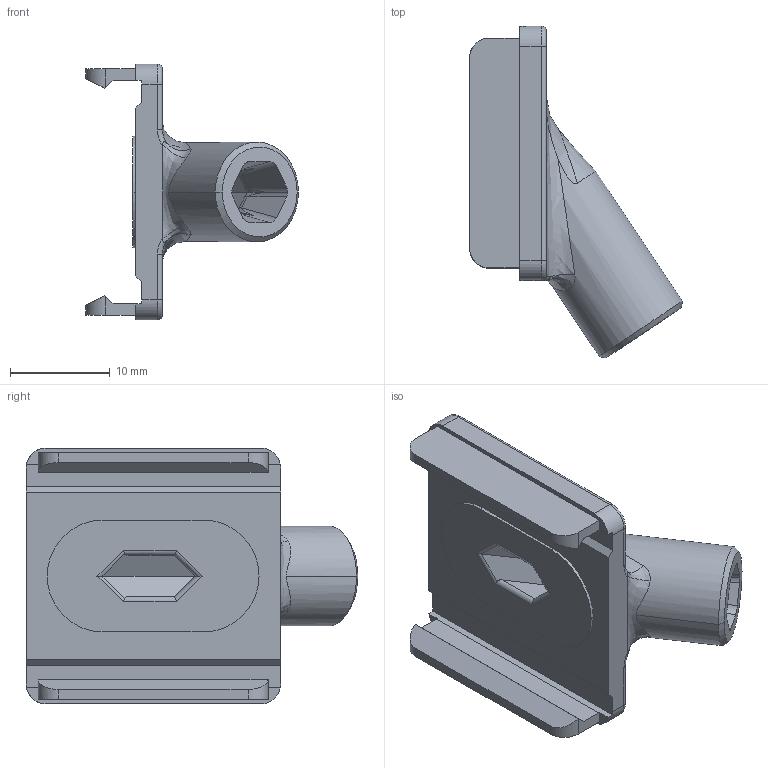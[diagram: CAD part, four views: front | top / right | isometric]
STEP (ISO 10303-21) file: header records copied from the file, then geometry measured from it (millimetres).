
FILE_DESCRIPTION (( 'STEP AP203' ), '1' );
FILE_NAME ('C5D絳佪奪砎蝶籵耋4.1.STEP', '2026-06-24T02:05:42', ( '' ), ( '' ), 'SwSTEP 2.0', 'SolidWorks 2024', '' );
FILE_SCHEMA (( 'CONFIG_CONTROL_DESIGN' ));
Length unit declared in the file: millimetre
Products named in the file (1): C5D导丝管橡胶通道4.1
Bounding box: 21.3 x 33.18 x 25.6 mm (x, y, z)
Volume: 3036.7 mm3; surface area: 2803.9 mm2
Topology: 1 solids, 1 shells, 112 faces, 289 edges, 180 vertices
Faces by surface type: plane 44, cylinder 40, bspline 20, cone 4, torus 4
Entity records: 4022 total; most frequent: CARTESIAN_POINT 1486, ORIENTED_EDGE 578, DIRECTION 445, EDGE_CURVE 289, VERTEX_POINT 180, VECTOR 151, LINE 151, AXIS2_PLACEMENT_3D 147
